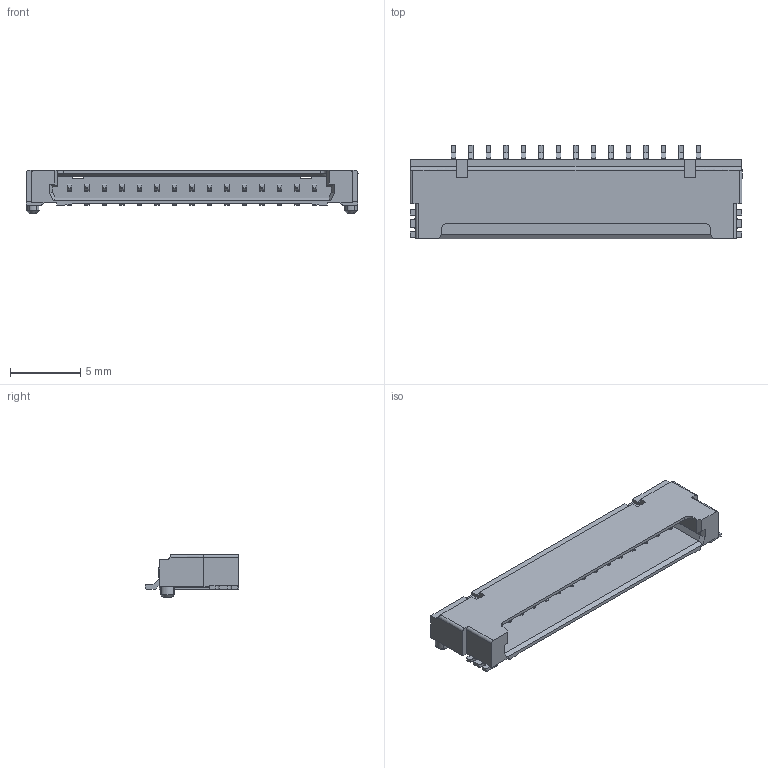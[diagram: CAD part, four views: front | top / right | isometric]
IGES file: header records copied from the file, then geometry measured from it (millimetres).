
Start section: Elysium IGES Interface
Global section: file name: 58HT:\3D_USER\3D_(共通)NCW技\DF14\DF14修正\DF14-15P-1.25H.igs; native system: CoCreate Modeling 17.0  01-Apr-2010; preprocessor: CoCreate IGES_3D V2.2; author: Unknown; organization: Unknown; date: 20110215.174034; units: millimetre
Bounding box: 23.7 x 6.7 x 3.1 mm (x, y, z)
Volume: 170.7 mm3; surface area: 631.2 mm2
Topology: 1 solids, 1 shells, 466 faces, 1274 edges, 840 vertices
Faces by surface type: bspline 466
